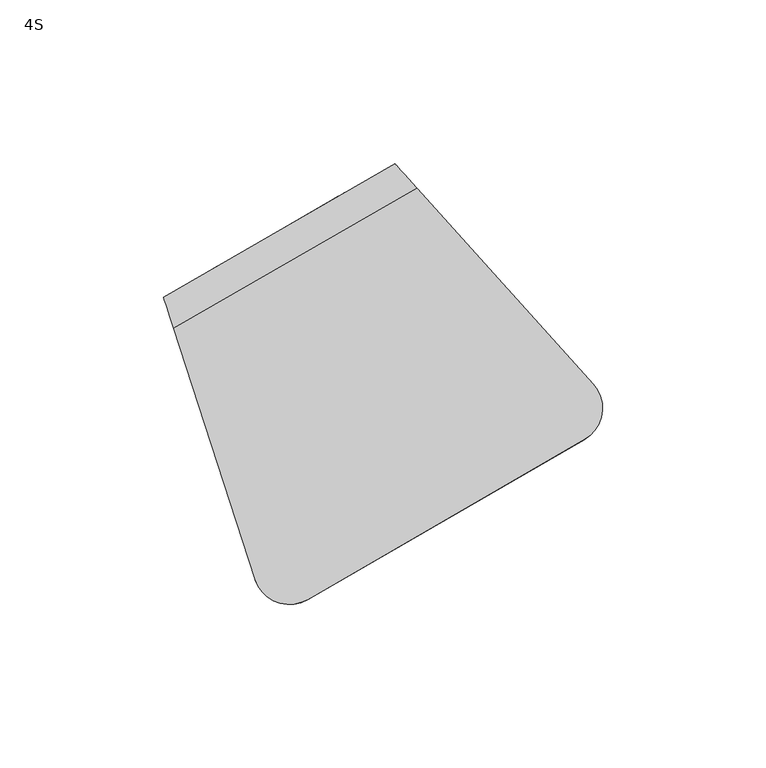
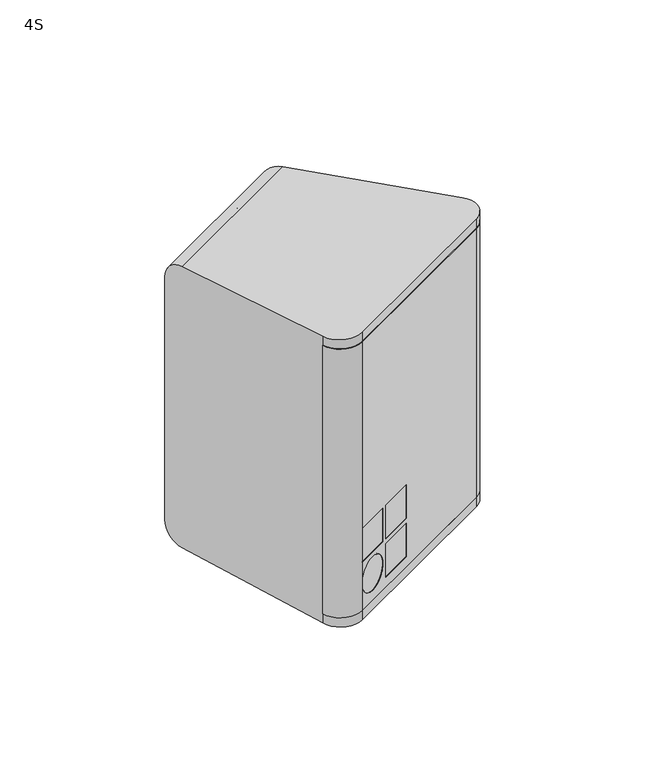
"""IFC4 building model written with IfcOpenShell, lengths in millimetres: proxy geometry, d&b xS-Series 4S Point Source : 4S."""

from ifc_helpers import new_model, si_unit, point, frame, frame_2d, origin, place, context, project, spatial, polyline, circle_curve, ellipse_curve, trimmed, segment, composite_curve, outline, extrude, source, transform, mapped, element, save
from ifc_brep_helpers import plane_surface, cylinder_surface, revolved_surface, advanced_brep


def proxy_4s_407254ed(model_context):
    return source(origin(), model_context, "Body", "SolidModel", [
        extrude(outline(composite_curve([segment(polyline([(-28.3099923, -59.89197), (66.0229637, -5.4288125)]), True, "CONTINUOUS"), segment(trimmed(circle_curve(frame_2d((62.3626123, -10.1829505)), 6.0), [point((66.0229637, -5.4288125))], [point((65.3626123, -15.3791029))], False, "CARTESIAN"), True, "CONTINUOUS"), segment(polyline([(65.3626123, -15.3791029), (-19.3626123, -64.2952342)]), True, "CONTINUOUS"), segment(trimmed(circle_curve(frame_2d((-22.3626123, -59.0990818)), 6.0), [point((-19.3626123, -64.2952342))], [point((-28.3099923, -59.89197))], False, "CARTESIAN"), True, "CONTINUOUS")], self_intersect=False)), frame((0.0, 0.0, -70.0), z_axis=(0.0, 0.0, 1.0), x_axis=(1.0, 0.0, 0.0)), (0.0, 0.0, 1.0), 140.0),
        advanced_brep(
        [(-1.5002858, -59.7559179, -27.5), (-4.0002858, -55.4257908, -27.5), (-4.0002858, -55.4257908, -45.0), (-1.5002858, -59.7559179, -45.0), (-19.1557303, -64.1757908, -45.0), (-16.6557303, -68.5059179, -45.0), (-19.1557303, -64.1757908, -27.5), (-16.6557303, -68.5059179, -27.5), (15.8202223, -49.7559179, -27.5), (13.3202223, -45.4257908, -27.5), (13.3202223, -45.4257908, -45.0), (15.8202223, -49.7559179, -45.0), (-1.8352223, -54.1757908, -45.0), (0.6647777, -58.5059179, -45.0), (-1.8352223, -54.1757908, -27.5), (0.6647777, -58.5059179, -27.5), (15.8202223, -49.7559179, -47.5), (13.3202223, -45.4257908, -47.5), (13.3202223, -45.4257908, -65.0), (15.8202223, -49.7559179, -65.0), (-1.8352223, -54.1757908, -65.0), (0.6647777, -58.5059179, -65.0), (-1.8352223, -54.1757908, -47.5), (0.6647777, -58.5059179, -47.5), (-9.0780081, -64.1309179, -65.0), (-11.5780081, -59.8007908, -65.0), (-11.5780081, -59.8007908, -47.5), (-9.0780081, -64.1309179, -47.5), (67.8626123, -19.70923, 70.0), (70.5372054, -2.8225138, 70.0), (66.0229637, -5.4288125, 70.0), (65.3626123, -15.3791029, 70.0), (-19.3626123, -64.2952342, 70.0), (-28.3099923, -59.89197, 70.0), (-32.824234, -62.4982687, 70.0), (-16.8626123, -68.6253612, 70.0), (67.8626123, -19.70923, -70.0), (-16.8626123, -68.6253612, -70.0), (-32.824234, -62.4982687, -70.0), (-28.3099923, -59.89197, -70.0), (-19.3626123, -64.2952342, -70.0), (65.3626123, -15.3791029, -70.0), (66.0229637, -5.4288125, -70.0), (70.5372054, -2.8225138, -70.0)],
        [
            (0, 1),
            (1, 2),
            (2, 3),
            (3, 0),
            (2, 4),
            (4, 5),
            (5, 3),
            (4, 6),
            (6, 7),
            (7, 5),
            (0, 7),
            (6, 1),
            (8, 9),
            (9, 10),
            (10, 11),
            (11, 8),
            (10, 12),
            (12, 13),
            (13, 11),
            (12, 14),
            (14, 15),
            (15, 13),
            (8, 15),
            (14, 9),
            (16, 17),
            (17, 18),
            (18, 19),
            (19, 16),
            (18, 20),
            (20, 21),
            (21, 19),
            (20, 22),
            (22, 23),
            (23, 21),
            (16, 23),
            (22, 17),
            (24, 25),
            (25, 26, circle_curve(frame((-11.5780081, -59.8007908, -56.25), z_axis=(-0.5000000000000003, 0.8660254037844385, 0.0), x_axis=(0.0, 0.0, 1.0000000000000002)), 8.75)),
            (26, 27),
            (27, 24, circle_curve(frame((-9.0780081, -64.1309179, -56.25), z_axis=(0.5000000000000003, -0.8660254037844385, 0.0), x_axis=(0.0, 0.0, 1.0000000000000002)), 8.75)),
            (24, 27, circle_curve(frame((-9.0780081, -64.1309179, -56.25), z_axis=(0.5000000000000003, -0.8660254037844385, 0.0), x_axis=(0.0, 0.0, 1.0000000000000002)), 8.75)),
            (26, 25, circle_curve(frame((-11.5780081, -59.8007908, -56.25), z_axis=(-0.5000000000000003, 0.8660254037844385, 0.0), x_axis=(0.0, 0.0, 1.0000000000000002)), 8.75)),
            (28, 29, circle_curve(frame((62.3626123, -10.1829505, 70.0), z_axis=(0.0, 0.0, 1.0), x_axis=(0.5000000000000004, -0.8660254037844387, 0.0)), 11.0)),
            (29, 30),
            (30, 31, circle_curve(frame((62.3626123, -10.1829505, 70.0), z_axis=(0.0, 0.0, -1.0), x_axis=(0.5000000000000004, -0.8660254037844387, 0.0)), 6.0)),
            (31, 32),
            (32, 33, circle_curve(frame((-22.3626123, -59.0990818, 70.0), z_axis=(0.0, 0.0, -1.0), x_axis=(0.5000000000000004, -0.8660254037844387, 0.0)), 6.0)),
            (33, 34),
            (34, 35, circle_curve(frame((-22.3626123, -59.0990818, 70.0), z_axis=(0.0, 0.0, 1.0), x_axis=(0.5000000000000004, -0.8660254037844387, 0.0)), 11.0)),
            (35, 28),
            (36, 37),
            (37, 38, circle_curve(frame((-22.3626123, -59.0990818, -70.0), z_axis=(0.0, 0.0, -1.0), x_axis=(0.5000000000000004, -0.8660254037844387, 0.0)), 11.0)),
            (38, 39),
            (39, 40, circle_curve(frame((-22.3626123, -59.0990818, -70.0), z_axis=(0.0, 0.0, 1.0), x_axis=(0.5000000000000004, -0.8660254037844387, 0.0)), 6.0)),
            (40, 41),
            (41, 42, circle_curve(frame((62.3626123, -10.1829505, -70.0), z_axis=(0.0, 0.0, 1.0), x_axis=(0.5000000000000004, -0.8660254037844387, 0.0)), 6.0)),
            (42, 43),
            (43, 36, circle_curve(frame((62.3626123, -10.1829505, -70.0), z_axis=(0.0, 0.0, -1.0), x_axis=(0.5000000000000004, -0.8660254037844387, 0.0)), 11.0)),
            (28, 36),
            (43, 29),
            (42, 30),
            (41, 31),
            (40, 32),
            (39, 33),
            (38, 34),
            (37, 35),
        ],
        [
            plane_surface(frame((-1.5002858, -59.7559179, -45.0), z_axis=(-0.8660254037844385, -0.5000000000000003, 0.0), x_axis=(-0.5000000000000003, 0.8660254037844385, 0.0))),
            plane_surface(frame((-16.6557303, -68.5059179, -45.0), z_axis=(0.0, 0.0, 1.0), x_axis=(-0.5000000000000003, 0.8660254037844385, 0.0))),
            plane_surface(frame((-16.6557303, -68.5059179, -27.5), z_axis=(0.8660254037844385, 0.5000000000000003, 0.0), x_axis=(-0.5000000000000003, 0.8660254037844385, 0.0))),
            plane_surface(frame((-1.5002858, -59.7559179, -27.5), z_axis=(0.0, 0.0, -1.0), x_axis=(-0.5000000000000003, 0.8660254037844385, 0.0))),
            plane_surface(frame((15.8202223, -49.7559179, -45.0), z_axis=(-0.8660254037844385, -0.5000000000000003, 0.0), x_axis=(-0.5000000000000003, 0.8660254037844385, 0.0))),
            plane_surface(frame((0.6647777, -58.5059179, -45.0), z_axis=(0.0, 0.0, 1.0), x_axis=(-0.5000000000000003, 0.8660254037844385, 0.0))),
            plane_surface(frame((0.6647777, -58.5059179, -27.5), z_axis=(0.8660254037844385, 0.5000000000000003, 0.0), x_axis=(-0.5000000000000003, 0.8660254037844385, 0.0))),
            plane_surface(frame((15.8202223, -49.7559179, -27.5), z_axis=(0.0, 0.0, -1.0), x_axis=(-0.5000000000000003, 0.8660254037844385, 0.0))),
            plane_surface(frame((15.8202223, -49.7559179, -65.0), z_axis=(-0.8660254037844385, -0.5000000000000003, 0.0), x_axis=(-0.5000000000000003, 0.8660254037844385, 0.0))),
            plane_surface(frame((0.6647777, -58.5059179, -65.0), z_axis=(0.0, 0.0, 1.0), x_axis=(-0.5000000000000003, 0.8660254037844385, 0.0))),
            plane_surface(frame((0.6647777, -58.5059179, -47.5), z_axis=(0.8660254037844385, 0.5000000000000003, 0.0), x_axis=(-0.5000000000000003, 0.8660254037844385, 0.0))),
            plane_surface(frame((15.8202223, -49.7559179, -47.5), z_axis=(0.0, 0.0, -1.0), x_axis=(-0.5000000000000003, 0.8660254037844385, 0.0))),
            revolved_surface(polyline([(-9.078008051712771, -64.1309178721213, -47.5), (-11.578008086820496, -59.80079079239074, -47.5)]), (36.5458461, -143.1537513, -56.25), (0.5000000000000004, -0.8660254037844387, 0.0)),
            plane_surface(frame((67.8626123, -19.70923, 70.0), z_axis=(0.0, 0.0, 1.0), x_axis=(0.8660254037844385, 0.5000000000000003, 0.0))),
            plane_surface(frame((67.8626123, -19.70923, -70.0), z_axis=(0.0, 0.0, -1.0), x_axis=(-0.8660254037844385, -0.5000000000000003, 0.0))),
            cylinder_surface(frame((62.3626123, -10.1829505, -70.0), z_axis=(0.0, 0.0, 1.0000000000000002), x_axis=(0.5000000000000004, -0.8660254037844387, 0.0)), 11.0),
            plane_surface(frame((70.5372054, -2.8225138, 70.0), z_axis=(-0.49999999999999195, 0.8660254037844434, 0.0), x_axis=(0.0, 0.0, -1.0))),
            revolved_surface(polyline([(65.36261230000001, -15.379102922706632, -70.0), (65.36261230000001, -15.379102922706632, 70.00000000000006)]), (62.3626123, -10.1829505, -70.0), (0.0, 0.0, -1.0000000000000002)),
            plane_surface(frame((65.3626123, -15.3791029, 70.0), z_axis=(-0.5000000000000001, 0.8660254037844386, 0.0), x_axis=(0.0, 0.0, -1.0))),
            revolved_surface(polyline([(-19.362612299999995, -64.29523422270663, -70.0), (-19.362612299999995, -64.29523422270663, 70.00000000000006)]), (-22.3626123, -59.0990818, -70.0), (0.0, 0.0, -1.0000000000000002)),
            plane_surface(frame((-28.3099923, -59.89197, 70.0), z_axis=(-0.49999999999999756, 0.8660254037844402, 0.0), x_axis=(0.0, 0.0, -1.0))),
            cylinder_surface(frame((-22.3626123, -59.0990818, -70.0), z_axis=(0.0, 0.0, 1.0000000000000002), x_axis=(0.5000000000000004, -0.8660254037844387, 0.0)), 11.0),
            plane_surface(frame((-16.8626123, -68.6253612, 70.0), z_axis=(0.5000000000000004, -0.8660254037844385, 0.0), x_axis=(0.0, 0.0, -1.0))),
        ],
        [
            (0, [[1, 2, 3, 4]]),
            (1, [[-3, 5, 6, 7]]),
            (2, [[-6, 8, 9, 10]]),
            (3, [[-1, 11, -9, 12]]),
            (4, [[13, 14, 15, 16]]),
            (5, [[-15, 17, 18, 19]]),
            (6, [[-18, 20, 21, 22]]),
            (7, [[-13, 23, -21, 24]]),
            (8, [[25, 26, 27, 28]]),
            (9, [[-27, 29, 30, 31]]),
            (10, [[-30, 32, 33, 34]]),
            (11, [[-25, 35, -33, 36]]),
            (12, [[37, 38, 39, 40]]),
            (12, [[-37, 41, -39, 42]]),
            (13, [[43, 44, 45, 46, 47, 48, 49, 50]]),
            (14, [[51, 52, 53, 54, 55, 56, 57, 58]]),
            (15, [[-43, 59, -58, 60]]),
            (16, [[-44, -60, -57, 61]]),
            (17, [[-45, -61, -56, 62]]),
            (18, [[-46, -62, -55, 63], [-2, -12, -8, -5], [-14, -24, -20, -17], [-26, -36, -32, -29], [-38, -42]]),
            (19, [[-47, -63, -54, 64]]),
            (20, [[-48, -64, -53, 65]]),
            (21, [[-49, -65, -52, 66]]),
            (22, [[-50, -66, -51, -59], [-4, -7, -10, -11], [-16, -19, -22, -23], [-28, -31, -34, -35], [-40, -41]]),
        ],
    ),
        extrude(outline(polyline([(-1.4873051, -59.7484235), (-16.6427497, -68.4984235), (-19.1427497, -64.1682965), (-3.9873051, -55.4182965), (-1.4873051, -59.7484235)])), frame((0.0, 0.0, -45.0), z_axis=(0.0, 0.0, 1.0), x_axis=(1.0, 0.0, 0.0)), (0.0, 0.0, 1.0), 17.5),
        extrude(outline(polyline([(15.8332029, -49.7484235), (0.6777584, -58.4984235), (-1.8222416, -54.1682965), (13.3332029, -45.4182965), (15.8332029, -49.7484235)])), frame((0.0, 0.0, -45.0), z_axis=(0.0, 0.0, 1.0), x_axis=(1.0, 0.0, 0.0)), (0.0, 0.0, 1.0), 17.5),
        extrude(outline(polyline([(15.8332029, -49.7484235), (0.6777584, -58.4984235), (-1.8222416, -54.1682965), (13.3332029, -45.4182965), (15.8332029, -49.7484235)])), frame((0.0, 0.0, -65.0), z_axis=(0.0, 0.0, 1.0), x_axis=(1.0, 0.0, 0.0)), (0.0, 0.0, 1.0), 17.5),
        extrude(outline(composite_curve([segment(trimmed(circle_curve(frame_2d((-8.75, -28.75)), 8.75), [point((-8.75, -37.5))], [point((-8.75, -20.0))], False, "CARTESIAN"), True, "CONTINUOUS"), segment(trimmed(circle_curve(frame_2d((-8.75, -28.75)), 8.75), [point((-8.75, -20.0))], [point((-8.75, -37.5))], False, "CARTESIAN"), True, "CONTINUOUS")], self_intersect=False)), frame((-16.6427497, -68.4984235, -27.5), z_axis=(-0.5000000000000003, 0.8660254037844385, 0.0), x_axis=(-0.8660254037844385, -0.5000000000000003, 0.0)), (0.0, 0.0, 1.0), 5.0),
        advanced_brep(
        [(-43.9714921, 30.038673, 57.4298657), (-39.6413651, 32.538673, 62.4298657), (-8.3586349, 50.5997657, 62.4298657), (-4.0285079, 53.0997657, 57.4298657), (-4.0285079, 53.0997657, -29.0610927), (-8.3586349, 50.5997657, -34.0610927), (-39.6413651, 32.538673, -34.0610927), (-43.9714921, 30.038673, -29.0610927), (-38.2819269, 33.3235451, -32.4913486), (-9.7180731, 49.8148937, -32.4913486), (-5.3879461, 52.3148937, -27.4913486), (-5.3879461, 52.3148937, -0.0804502), (-42.6120539, 30.8235451, -0.0804502), (-42.6120539, 30.8235451, -27.4913486), (-45.4714921, 32.6367492, 57.4298657), (-41.1413651, 35.1367492, 62.4298657), (-9.8586349, 53.197842, 62.4298657), (-5.5285079, 55.697842, 57.4298657), (-5.5285079, 55.697842, -29.0610927), (-9.8586349, 53.197842, -34.0610927), (-41.1413651, 35.1367492, -34.0610927), (-45.4714921, 32.6367492, -29.0610927), (-1.7180731, 35.9584872, -32.4913486), (-30.2819269, 19.4671386, -32.4913486), (-34.6120539, 16.9671386, -27.4913486), (-34.6120539, 16.9671386, -0.0804502), (2.6120539, 38.4584872, -0.0804502), (2.6120539, 38.4584872, -27.4913486), (67.8626123, -19.70923, 70.0), (-16.8626123, -68.6253612, 70.0), (-32.824234, -62.4982687, 70.0), (70.5372054, -2.8225138, 70.0), (67.8626123, -19.70923, -70.0), (70.5372054, -2.8225138, -70.0), (-32.824234, -62.4982687, -70.0), (-16.8626123, -68.6253612, -70.0), (70.5372054, -2.8225138, -74.7177462), (16.5749762, 57.1086133, -73.3763698), (9.8504908, 64.5769109, -63.3778153), (9.8504908, 64.5769109, 63.3841074), (16.5749762, 57.1086133, 73.3826619), (70.5372054, -2.8225138, 74.7240383), (-57.744998, 14.1999562, -73.3763698), (-32.824234, -62.4982687, -74.7177462), (-32.824234, -62.4982687, 74.7240383), (-57.744998, 14.1999562, 73.3826619), (-60.8504908, 23.7576802, 63.3841074), (-60.8504908, 23.7576802, -63.3778153), (67.8626123, -19.70923, 74.9499793), (-16.8626123, -68.6253612, 74.9499793), (67.8626123, -19.70923, -74.9436872), (-16.8626123, -68.6253612, -74.9436872)],
        [
            (0, 1, circle_curve(frame((-39.6413651, 32.538673, 57.4298657), z_axis=(-0.49999999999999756, 0.8660254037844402, 0.0), x_axis=(-0.8660254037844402, -0.49999999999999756, 0.0)), 5.0)),
            (1, 2),
            (2, 3, circle_curve(frame((-8.3586349, 50.5997657, 57.4298657), z_axis=(-0.49999999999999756, 0.8660254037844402, 0.0), x_axis=(-0.8660254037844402, -0.49999999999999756, 0.0)), 5.0)),
            (3, 4),
            (4, 5, circle_curve(frame((-8.3586349, 50.5997657, -29.0610927), z_axis=(-0.49999999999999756, 0.8660254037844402, 0.0), x_axis=(-0.8660254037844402, -0.49999999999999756, 0.0)), 5.0)),
            (5, 6),
            (6, 7, circle_curve(frame((-39.6413651, 32.538673, -29.0610927), z_axis=(-0.49999999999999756, 0.8660254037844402, 0.0), x_axis=(-0.8660254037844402, -0.49999999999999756, 0.0)), 5.0)),
            (7, 0),
            (8, 9),
            (9, 10, circle_curve(frame((-9.7180731, 49.8148937, -27.4913486), z_axis=(0.49999999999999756, -0.8660254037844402, 0.0), x_axis=(-0.8660254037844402, -0.49999999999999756, 0.0)), 5.0)),
            (10, 11),
            (11, 12),
            (12, 13),
            (13, 8, circle_curve(frame((-38.2819269, 33.3235451, -27.4913486), z_axis=(0.49999999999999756, -0.8660254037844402, 0.0), x_axis=(-0.8660254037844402, -0.49999999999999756, 0.0)), 5.0)),
            (0, 14),
            (14, 15, circle_curve(frame((-41.1413651, 35.1367492, 57.4298657), z_axis=(-0.49999999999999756, 0.8660254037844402, 0.0), x_axis=(-0.8660254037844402, -0.49999999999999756, 0.0)), 5.0)),
            (15, 1),
            (15, 16),
            (16, 2),
            (16, 17, circle_curve(frame((-9.8586349, 53.197842, 57.4298657), z_axis=(-0.49999999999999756, 0.8660254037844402, 0.0), x_axis=(-0.8660254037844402, -0.49999999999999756, 0.0)), 5.0)),
            (17, 3),
            (17, 18),
            (18, 4),
            (18, 19, circle_curve(frame((-9.8586349, 53.197842, -29.0610927), z_axis=(-0.49999999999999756, 0.8660254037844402, 0.0), x_axis=(-0.8660254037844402, -0.49999999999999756, 0.0)), 5.0)),
            (19, 5),
            (19, 20),
            (20, 6),
            (20, 21, circle_curve(frame((-41.1413651, 35.1367492, -29.0610927), z_axis=(-0.49999999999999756, 0.8660254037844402, 0.0), x_axis=(-0.8660254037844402, -0.49999999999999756, 0.0)), 5.0)),
            (21, 7),
            (21, 14),
            (22, 23),
            (23, 24, circle_curve(frame((-30.2819269, 19.4671386, -27.4913486), z_axis=(-0.49999999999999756, 0.8660254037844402, 0.0), x_axis=(-0.8660254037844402, -0.49999999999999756, 0.0)), 5.0)),
            (24, 25),
            (25, 26),
            (26, 27),
            (27, 22, circle_curve(frame((-1.7180731, 35.9584872, -27.4913486), z_axis=(-0.49999999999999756, 0.8660254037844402, 0.0), x_axis=(-0.8660254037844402, -0.49999999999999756, 0.0)), 5.0)),
            (28, 29),
            (29, 30, circle_curve(frame((-22.3626123, -59.0990818, 70.0), z_axis=(0.0, 0.0, -1.0), x_axis=(0.5000000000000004, -0.8660254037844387, 0.0)), 11.0)),
            (30, 31),
            (31, 28, circle_curve(frame((62.3626123, -10.1829505, 70.0), z_axis=(0.0, 0.0, -1.0), x_axis=(0.5000000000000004, -0.8660254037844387, 0.0)), 11.0)),
            (32, 33, circle_curve(frame((62.3626123, -10.1829505, -70.0), z_axis=(0.0, 0.0, 1.0), x_axis=(0.5000000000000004, -0.8660254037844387, 0.0)), 11.0)),
            (33, 34),
            (34, 35, circle_curve(frame((-22.3626123, -59.0990818, -70.0), z_axis=(0.0, 0.0, 1.0), x_axis=(0.5000000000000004, -0.8660254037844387, 0.0)), 11.0)),
            (35, 32),
            (22, 9),
            (8, 23),
            (13, 24),
            (12, 25),
            (11, 26),
            (10, 27),
            (36, 37),
            (37, 38, ellipse_curve(frame((16.6912846, 56.9794397, -63.3778153), z_axis=(0.7431448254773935, 0.6691306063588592, 0.0), x_axis=(-0.6691306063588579, 0.7431448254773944, 0.0)), 10.2234059, 10.0)),
            (38, 39),
            (39, 40, ellipse_curve(frame((16.6912846, 56.9794397, 63.3841074), z_axis=(0.7431448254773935, 0.6691306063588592, 0.0), x_axis=(-0.6691306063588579, 0.7431448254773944, 0.0)), 10.2234059, 10.0)),
            (40, 41),
            (41, 31),
            (31, 33),
            (33, 36),
            (30, 34),
            (42, 43),
            (43, 34),
            (30, 44),
            (44, 45),
            (45, 46, ellipse_curve(frame((-57.6912846, 14.0346434, 63.3841074), z_axis=(-0.9510565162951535, -0.3090169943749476, 0.0), x_axis=(0.30901699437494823, -0.9510565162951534, 0.0)), 10.2234059, 10.0)),
            (46, 47),
            (47, 42, ellipse_curve(frame((-57.6912846, 14.0346434, -63.3778153), z_axis=(-0.9510565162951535, -0.3090169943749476, 0.0), x_axis=(0.30901699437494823, -0.9510565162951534, 0.0)), 10.2234059, 10.0)),
            (38, 47),
            (46, 39),
            (41, 48, ellipse_curve(frame((62.3626123, -10.1829505, 74.7629284), z_axis=(0.008501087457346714, -0.014724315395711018, -0.9998554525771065), x_axis=(0.49992772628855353, -0.8659002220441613, 0.017002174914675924)), 11.0015903, 11.0)),
            (48, 28),
            (29, 49),
            (49, 44, ellipse_curve(frame((-22.3626123, -59.0990818, 74.7629284), z_axis=(0.008501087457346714, -0.014724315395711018, -0.9998554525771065), x_axis=(0.49992772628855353, -0.8659002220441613, 0.017002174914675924)), 11.0015903, 11.0)),
            (48, 49),
            (32, 50),
            (50, 36, ellipse_curve(frame((62.3626123, -10.1829505, -74.7566362), z_axis=(0.008501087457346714, -0.014724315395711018, 0.9998554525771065), x_axis=(-0.49992772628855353, 0.8659002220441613, 0.017002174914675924)), 11.0015903, 11.0)),
            (43, 51, ellipse_curve(frame((-22.3626123, -59.0990818, -74.7566362), z_axis=(0.008501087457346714, -0.014724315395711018, 0.9998554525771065), x_axis=(-0.49992772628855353, 0.8659002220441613, 0.017002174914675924)), 11.0015903, 11.0)),
            (51, 35),
            (51, 50),
            (40, 45),
            (42, 37),
        ],
        [
            plane_surface(frame((-43.9714921, 30.038673, 57.4298657), z_axis=(-0.49999999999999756, 0.8660254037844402, 0.0), x_axis=(0.0, 0.0, -1.0))),
            revolved_surface(polyline([(-45.47149211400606, 32.636749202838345, 57.4298657), (-43.97149211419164, 30.03867299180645, 57.4298657)]), (-39.6413651, 32.538673, 57.4298657), (-0.49999999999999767, 0.8660254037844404, 0.0)),
            plane_surface(frame((-41.1413651, 35.1367492, 62.4298657), z_axis=(0.0, 0.0, -1.0), x_axis=(0.5000000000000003, -0.8660254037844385, 0.0))),
            revolved_surface(polyline([(-14.18876196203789, 50.69784198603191, 57.4298657), (-12.6887619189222, 48.09976570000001, 57.4298657)]), (-8.3586349, 50.5997657, 57.4298657), (-0.49999999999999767, 0.8660254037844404, 0.0)),
            plane_surface(frame((-5.5285079, 55.697842, 57.4298657), z_axis=(-0.8660254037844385, -0.5000000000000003, 0.0), x_axis=(0.5000000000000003, -0.8660254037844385, 0.0))),
            revolved_surface(polyline([(-14.18876196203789, 50.69784198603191, -29.0610927), (-12.6887619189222, 48.09976570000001, -29.0610927)]), (-8.3586349, 50.5997657, -29.0610927), (-0.49999999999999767, 0.8660254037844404, 0.0)),
            plane_surface(frame((-9.8586349, 53.197842, -34.0610927), z_axis=(0.0, 0.0, 1.0), x_axis=(0.5000000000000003, -0.8660254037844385, 0.0))),
            revolved_surface(polyline([(-45.47149211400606, 32.636749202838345, -29.0610927), (-43.97149211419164, 30.03867299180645, -29.0610927)]), (-39.6413651, 32.538673, -29.0610927), (-0.49999999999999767, 0.8660254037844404, 0.0)),
            plane_surface(frame((-45.4714921, 32.6367492, -29.0610927), z_axis=(0.8660254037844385, 0.5000000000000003, 0.0), x_axis=(0.5000000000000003, -0.8660254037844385, 0.0))),
            plane_surface(frame((-24.660254, 22.7128129, -32.4913486), z_axis=(-0.49999999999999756, 0.8660254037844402, 0.0), x_axis=(0.8660254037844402, 0.49999999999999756, 0.0))),
            plane_surface(frame((67.8626123, -19.70923, 70.0), z_axis=(0.0, 0.0, -1.0), x_axis=(-0.8660254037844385, -0.5000000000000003, 0.0))),
            plane_surface(frame((67.8626123, -19.70923, -70.0), z_axis=(0.0, 0.0, 1.0), x_axis=(0.8660254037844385, 0.5000000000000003, 0.0))),
            plane_surface(frame((-11.2180731, 52.4129699, -32.4913486), z_axis=(0.0, 0.0, 1.0), x_axis=(0.4999999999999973, -0.8660254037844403, 0.0))),
            revolved_surface(polyline([(-42.612053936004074, 30.8235450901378, -27.4913486), (-34.61205391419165, 16.96713859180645, -27.4913486)]), (-30.2819269, 19.4671386, -27.4913486), (-0.49999999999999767, 0.8660254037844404, 0.0)),
            plane_surface(frame((-44.1120539, 33.4216213, -27.4913486), z_axis=(0.8660254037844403, 0.4999999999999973, 0.0), x_axis=(0.4999999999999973, -0.8660254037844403, 0.0))),
            plane_surface(frame((-44.1120539, 33.4216213, -0.0804502), z_axis=(0.0, 0.0, -1.0), x_axis=(0.4999999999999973, -0.8660254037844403, 0.0))),
            plane_surface(frame((-6.8879461, 54.9129699, -0.0804502), z_axis=(-0.8660254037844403, -0.4999999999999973, 0.0), x_axis=(0.4999999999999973, -0.8660254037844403, 0.0))),
            revolved_surface(polyline([(-14.048200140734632, 47.31489369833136, -27.4913486), (-6.0482001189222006, 33.458487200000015, -27.4913486)]), (-1.7180731, 35.9584872, -27.4913486), (-0.49999999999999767, 0.8660254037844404, 0.0)),
            plane_surface(frame((9.8504908, 64.5769109, -74.9436872), z_axis=(0.7431448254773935, 0.6691306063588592, 0.0), x_axis=(0.0, 0.0, 1.0))),
            plane_surface(frame((70.5372054, -2.8225138, -74.9436872), z_axis=(0.500000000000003, -0.8660254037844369, 0.0), x_axis=(0.0, 0.0, 1.0))),
            plane_surface(frame((-32.824234, -62.4982687, -74.9436872), z_axis=(-0.9510565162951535, -0.3090169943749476, 0.0), x_axis=(0.0, 0.0, 1.0))),
            plane_surface(frame((-60.8504908, 23.7576802, -74.9436872), z_axis=(-0.5000000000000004, 0.8660254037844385, 0.0), x_axis=(0.0, 0.0, 1.0))),
            cylinder_surface(frame((62.3626123, -10.1829505, 70.0), z_axis=(0.0, 0.0, 1.0000000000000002), x_axis=(0.5000000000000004, -0.8660254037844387, 0.0)), 11.0),
            cylinder_surface(frame((-22.3626123, -59.0990818, 70.0), z_axis=(0.0, 0.0, 1.0000000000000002), x_axis=(0.5000000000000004, -0.8660254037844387, 0.0)), 11.0),
            plane_surface(frame((-16.8626123, -68.6253612, 74.9499793), z_axis=(0.5000000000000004, -0.8660254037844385, 0.0), x_axis=(0.0, 0.0, -1.0))),
            cylinder_surface(frame((62.3626123, -10.1829505, -74.9436872), z_axis=(0.0, 0.0, 1.0000000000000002), x_axis=(0.5000000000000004, -0.8660254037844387, 0.0)), 11.0),
            cylinder_surface(frame((-22.3626123, -59.0990818, -74.9436872), z_axis=(0.0, 0.0, 1.0000000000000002), x_axis=(0.5000000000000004, -0.8660254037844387, 0.0)), 11.0),
            plane_surface(frame((-16.8626123, -68.6253612, -70.0), z_axis=(0.5000000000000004, -0.8660254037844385, 0.0), x_axis=(0.0, 0.0, -1.0))),
            plane_surface(frame((84.8971197, -17.0461247, 75.055594), z_axis=(-0.008501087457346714, 0.014724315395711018, 0.9998554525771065), x_axis=(-0.8660254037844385, -0.5000000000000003, 0.0))),
            cylinder_surface(frame((-76.7916512, 3.0070416, 63.3841074), z_axis=(-0.8660254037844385, -0.5000000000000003, 0.0), x_axis=(-0.5000000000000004, 0.8660254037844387, 0.0)), 10.0),
            plane_surface(frame((35.7066404, 68.1542847, -73.3763698), z_axis=(-0.008501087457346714, 0.014724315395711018, -0.9998554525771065), x_axis=(-0.8660254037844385, -0.5000000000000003, 0.0))),
            cylinder_surface(frame((-76.7916512, 3.0070416, -63.3778153), z_axis=(-0.8660254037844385, -0.5000000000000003, 0.0), x_axis=(-0.5000000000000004, 0.8660254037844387, 0.0)), 10.0),
        ],
        [
            (0, [[1, 2, 3, 4, 5, 6, 7, 8], [9, 10, 11, 12, 13, 14]]),
            (1, [[-1, 15, 16, 17]]),
            (2, [[-2, -17, 18, 19]]),
            (3, [[-3, -19, 20, 21]]),
            (4, [[-4, -21, 22, 23]]),
            (5, [[-5, -23, 24, 25]]),
            (6, [[-6, -25, 26, 27]]),
            (7, [[-7, -27, 28, 29]]),
            (8, [[-8, -29, 30, -15]]),
            (9, [[31, 32, 33, 34, 35, 36]]),
            (10, [[37, 38, 39, 40]]),
            (11, [[41, 42, 43, 44]]),
            (12, [[-31, 45, -9, 46]]),
            (13, [[-32, -46, -14, 47]]),
            (14, [[-33, -47, -13, 48]]),
            (15, [[-34, -48, -12, 49]]),
            (16, [[-35, -49, -11, 50]]),
            (17, [[-36, -50, -10, -45]]),
            (18, [[51, 52, 53, 54, 55, 56, 57, 58]]),
            (19, [[-39, 59, -42, -57]]),
            (20, [[60, 61, -59, 62, 63, 64, 65, 66]]),
            (21, [[67, -65, 68, -53], [-16, -30, -28, -26, -24, -22, -20, -18]]),
            (22, [[-40, -56, 69, 70]]),
            (23, [[-38, 71, 72, -62]]),
            (24, [[-37, -70, 73, -71]]),
            (25, [[-41, 74, 75, -58]]),
            (26, [[-43, -61, 76, 77]]),
            (27, [[-44, -77, 78, -74]]),
            (28, [[79, -63, -72, -73, -69, -55]]),
            (29, [[-79, -54, -68, -64]]),
            (30, [[80, -51, -75, -78, -76, -60]]),
            (31, [[-80, -66, -67, -52]]),
        ],
    ),
    ])


if __name__ == "__main__":
    model = new_model("IFC4")
    model_context = context("Model", 3, world=origin())
    ifc_project = project(units=[si_unit("LENGTHUNIT", "METRE", prefix="MILLI")], contexts=[model_context])
    site = spatial("IfcSite", under=ifc_project)
    building = spatial("IfcBuilding", under=site)
    placement = place(None, origin())
    proxy_4s_shape = proxy_4s_407254ed(model_context)
    element("IfcBuildingElementProxy", 1, Name="d&b xS-Series 4S Point Source : 4S", ObjectType="d&b xS-Series 4S Point Source : 4S", at=placement, inside=building, context=model_context, shape_type="MappedRepresentation", body=[
        mapped(proxy_4s_shape, transform((0.0, 0.0, 0.0), x_axis=(1.0, 0.0, 0.0), y_axis=(0.0, 1.0, 0.0), z_axis=(0.0, 0.0, 1.0))),
    ])
    save(model, "model.ifc")
